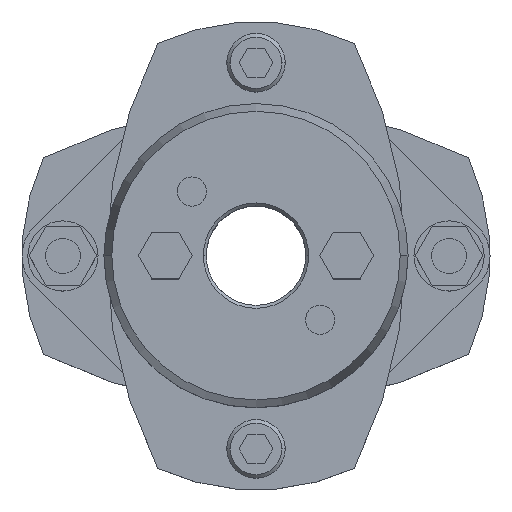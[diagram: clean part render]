
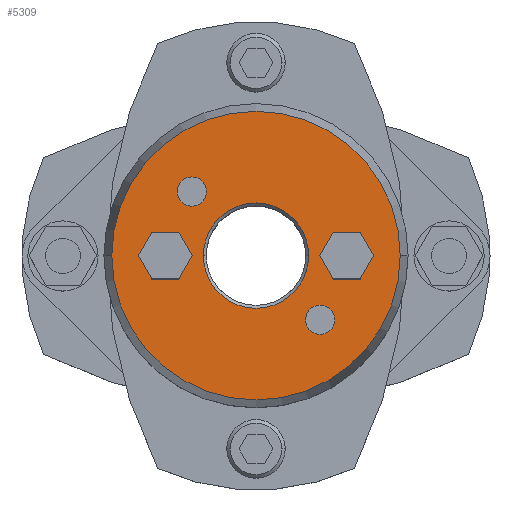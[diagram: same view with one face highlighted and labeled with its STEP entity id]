
A CAD part, top view. The second image highlights one B-rep face of the part: STEP entity #5309.
In plain terms, the highlighted planar face has unit normal (0, 0, 1).
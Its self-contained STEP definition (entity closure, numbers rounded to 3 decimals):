
#857=CARTESIAN_POINT('',(-9.,0.,35.875));
#858=VERTEX_POINT('',#857);
#874=CARTESIAN_POINT('',(9.,0.,35.875));
#875=VERTEX_POINT('',#874);
#882=CARTESIAN_POINT('',(0.,0.,35.875));
#883=DIRECTION('',(0.0,0.0,1.0));
#884=DIRECTION('',(-1.0,0.0,0.0));
#885=AXIS2_PLACEMENT_3D('',#882,#883,#884);
#886=CIRCLE('',#885,9.0);
#887=EDGE_CURVE('',#875,#858,#886,.T.);
#1045=CARTESIAN_POINT('',(24.66,0.,35.875));
#1046=VERTEX_POINT('',#1045);
#1053=CARTESIAN_POINT('',(-24.66,0.,35.875));
#1054=VERTEX_POINT('',#1053);
#1055=CARTESIAN_POINT('',(0.,0.,35.875));
#1056=DIRECTION('',(0.0,0.0,-1.0));
#1057=DIRECTION('',(1.0,0.0,0.0));
#1058=AXIS2_PLACEMENT_3D('',#1055,#1056,#1057);
#1059=CIRCLE('',#1058,24.66);
#1060=EDGE_CURVE('',#1046,#1054,#1059,.T.);
#1155=CARTESIAN_POINT('',(-13.46,10.96,35.875));
#1156=VERTEX_POINT('',#1155);
#1172=CARTESIAN_POINT('',(-8.46,10.96,35.875));
#1173=VERTEX_POINT('',#1172);
#1180=CARTESIAN_POINT('',(-10.96,10.96,35.875));
#1181=DIRECTION('',(0.0,0.0,-1.0));
#1182=DIRECTION('',(-1.0,0.0,0.0));
#1183=AXIS2_PLACEMENT_3D('',#1180,#1181,#1182);
#1184=CIRCLE('',#1183,2.5);
#1185=EDGE_CURVE('',#1156,#1173,#1184,.T.);
#1197=CARTESIAN_POINT('',(8.46,-10.96,35.875));
#1198=VERTEX_POINT('',#1197);
#1214=CARTESIAN_POINT('',(13.46,-10.96,35.875));
#1215=VERTEX_POINT('',#1214);
#1222=CARTESIAN_POINT('',(10.96,-10.96,35.875));
#1223=DIRECTION('',(0.0,0.0,-1.0));
#1224=DIRECTION('',(-1.0,0.0,0.0));
#1225=AXIS2_PLACEMENT_3D('',#1222,#1223,#1224);
#1226=CIRCLE('',#1225,2.5);
#1227=EDGE_CURVE('',#1198,#1215,#1226,.T.);
#4553=CARTESIAN_POINT('',(10.881,0.,35.875));
#4554=VERTEX_POINT('',#4553);
#4561=CARTESIAN_POINT('',(13.191,-4.,35.875));
#4562=VERTEX_POINT('',#4561);
#4563=CARTESIAN_POINT('',(13.191,-4.,35.875));
#4564=DIRECTION('',(-0.5,0.866,0.0));
#4565=VECTOR('',#4564,4.619);
#4566=LINE('',#4563,#4565);
#4567=EDGE_CURVE('',#4562,#4554,#4566,.T.);
#4591=CARTESIAN_POINT('',(13.191,4.,35.875));
#4592=VERTEX_POINT('',#4591);
#4599=CARTESIAN_POINT('',(10.881,0.,35.875));
#4600=DIRECTION('',(0.5,0.866,0.0));
#4601=VECTOR('',#4600,4.619);
#4602=LINE('',#4599,#4601);
#4603=EDGE_CURVE('',#4554,#4592,#4602,.T.);
#4622=CARTESIAN_POINT('',(17.809,4.,35.875));
#4623=VERTEX_POINT('',#4622);
#4630=CARTESIAN_POINT('',(13.191,4.,35.875));
#4631=DIRECTION('',(1.0,0.0,0.0));
#4632=VECTOR('',#4631,4.619);
#4633=LINE('',#4630,#4632);
#4634=EDGE_CURVE('',#4592,#4623,#4633,.T.);
#4653=CARTESIAN_POINT('',(20.119,0.,35.875));
#4654=VERTEX_POINT('',#4653);
#4661=CARTESIAN_POINT('',(17.809,4.,35.875));
#4662=DIRECTION('',(0.5,-0.866,0.0));
#4663=VECTOR('',#4662,4.619);
#4664=LINE('',#4661,#4663);
#4665=EDGE_CURVE('',#4623,#4654,#4664,.T.);
#4684=CARTESIAN_POINT('',(17.809,-4.,35.875));
#4685=VERTEX_POINT('',#4684);
#4692=CARTESIAN_POINT('',(20.119,0.,35.875));
#4693=DIRECTION('',(-0.5,-0.866,0.0));
#4694=VECTOR('',#4693,4.619);
#4695=LINE('',#4692,#4694);
#4696=EDGE_CURVE('',#4654,#4685,#4695,.T.);
#4714=CARTESIAN_POINT('',(17.809,-4.,35.875));
#4715=DIRECTION('',(-1.0,0.0,0.0));
#4716=VECTOR('',#4715,4.619);
#4717=LINE('',#4714,#4716);
#4718=EDGE_CURVE('',#4685,#4562,#4717,.T.);
#4753=CARTESIAN_POINT('',(-20.119,0.,35.875));
#4754=VERTEX_POINT('',#4753);
#4761=CARTESIAN_POINT('',(-17.809,-4.,35.875));
#4762=VERTEX_POINT('',#4761);
#4763=CARTESIAN_POINT('',(-17.809,-4.,35.875));
#4764=DIRECTION('',(-0.5,0.866,0.0));
#4765=VECTOR('',#4764,4.619);
#4766=LINE('',#4763,#4765);
#4767=EDGE_CURVE('',#4762,#4754,#4766,.T.);
#4791=CARTESIAN_POINT('',(-17.809,4.,35.875));
#4792=VERTEX_POINT('',#4791);
#4799=CARTESIAN_POINT('',(-20.119,0.,35.875));
#4800=DIRECTION('',(0.5,0.866,0.0));
#4801=VECTOR('',#4800,4.619);
#4802=LINE('',#4799,#4801);
#4803=EDGE_CURVE('',#4754,#4792,#4802,.T.);
#4822=CARTESIAN_POINT('',(-13.191,4.,35.875));
#4823=VERTEX_POINT('',#4822);
#4830=CARTESIAN_POINT('',(-17.809,4.,35.875));
#4831=DIRECTION('',(1.0,0.0,0.0));
#4832=VECTOR('',#4831,4.619);
#4833=LINE('',#4830,#4832);
#4834=EDGE_CURVE('',#4792,#4823,#4833,.T.);
#4853=CARTESIAN_POINT('',(-10.881,0.,35.875));
#4854=VERTEX_POINT('',#4853);
#4861=CARTESIAN_POINT('',(-13.191,4.,35.875));
#4862=DIRECTION('',(0.5,-0.866,0.0));
#4863=VECTOR('',#4862,4.619);
#4864=LINE('',#4861,#4863);
#4865=EDGE_CURVE('',#4823,#4854,#4864,.T.);
#4884=CARTESIAN_POINT('',(-13.191,-4.,35.875));
#4885=VERTEX_POINT('',#4884);
#4892=CARTESIAN_POINT('',(-10.881,0.,35.875));
#4893=DIRECTION('',(-0.5,-0.866,0.0));
#4894=VECTOR('',#4893,4.619);
#4895=LINE('',#4892,#4894);
#4896=EDGE_CURVE('',#4854,#4885,#4895,.T.);
#4914=CARTESIAN_POINT('',(-13.191,-4.,35.875));
#4915=DIRECTION('',(-1.0,0.0,0.0));
#4916=VECTOR('',#4915,4.619);
#4917=LINE('',#4914,#4916);
#4918=EDGE_CURVE('',#4885,#4762,#4917,.T.);
#4944=CARTESIAN_POINT('',(10.96,-10.96,35.875));
#4945=DIRECTION('',(0.0,0.0,-1.0));
#4946=DIRECTION('',(-1.0,0.0,0.0));
#4947=AXIS2_PLACEMENT_3D('',#4944,#4945,#4946);
#4948=CIRCLE('',#4947,2.5);
#4949=EDGE_CURVE('',#1215,#1198,#4948,.T.);
#4978=CARTESIAN_POINT('',(-10.96,10.96,35.875));
#4979=DIRECTION('',(0.0,0.0,-1.0));
#4980=DIRECTION('',(-1.0,0.0,0.0));
#4981=AXIS2_PLACEMENT_3D('',#4978,#4979,#4980);
#4982=CIRCLE('',#4981,2.5);
#4983=EDGE_CURVE('',#1173,#1156,#4982,.T.);
#5256=CARTESIAN_POINT('',(0.,0.,35.875));
#5257=DIRECTION('',(0.0,0.0,-1.0));
#5258=DIRECTION('',(1.0,0.0,0.0));
#5259=AXIS2_PLACEMENT_3D('',#5256,#5257,#5258);
#5260=CIRCLE('',#5259,24.66);
#5261=EDGE_CURVE('',#1054,#1046,#5260,.T.);
#5266=CARTESIAN_POINT('',(-2.364,0.,35.875));
#5267=DIRECTION('',(0.0,0.0,1.0));
#5268=DIRECTION('',(-1.0,0.0,0.0));
#5269=AXIS2_PLACEMENT_3D('',#5266,#5267,#5268);
#5270=PLANE('',#5269);
#5271=ORIENTED_EDGE('',*,*,#5261,.F.);
#5272=ORIENTED_EDGE('',*,*,#1060,.F.);
#5273=EDGE_LOOP('',(#5271,#5272));
#5274=FACE_OUTER_BOUND('',#5273,.T.);
#5275=ORIENTED_EDGE('',*,*,#4567,.T.);
#5276=ORIENTED_EDGE('',*,*,#4603,.T.);
#5277=ORIENTED_EDGE('',*,*,#4634,.T.);
#5278=ORIENTED_EDGE('',*,*,#4665,.T.);
#5279=ORIENTED_EDGE('',*,*,#4696,.T.);
#5280=ORIENTED_EDGE('',*,*,#4718,.T.);
#5281=EDGE_LOOP('',(#5275,#5276,#5277,#5278,#5279,#5280));
#5282=FACE_BOUND('',#5281,.T.);
#5283=ORIENTED_EDGE('',*,*,#4767,.T.);
#5284=ORIENTED_EDGE('',*,*,#4803,.T.);
#5285=ORIENTED_EDGE('',*,*,#4834,.T.);
#5286=ORIENTED_EDGE('',*,*,#4865,.T.);
#5287=ORIENTED_EDGE('',*,*,#4896,.T.);
#5288=ORIENTED_EDGE('',*,*,#4918,.T.);
#5289=EDGE_LOOP('',(#5283,#5284,#5285,#5286,#5287,#5288));
#5290=FACE_BOUND('',#5289,.T.);
#5291=ORIENTED_EDGE('',*,*,#1227,.T.);
#5292=ORIENTED_EDGE('',*,*,#4949,.T.);
#5293=EDGE_LOOP('',(#5291,#5292));
#5294=FACE_BOUND('',#5293,.T.);
#5295=ORIENTED_EDGE('',*,*,#1185,.T.);
#5296=ORIENTED_EDGE('',*,*,#4983,.T.);
#5297=EDGE_LOOP('',(#5295,#5296));
#5298=FACE_BOUND('',#5297,.T.);
#5299=ORIENTED_EDGE('',*,*,#887,.F.);
#5300=CARTESIAN_POINT('',(0.,0.,35.875));
#5301=DIRECTION('',(0.0,0.0,1.0));
#5302=DIRECTION('',(-1.0,0.0,0.0));
#5303=AXIS2_PLACEMENT_3D('',#5300,#5301,#5302);
#5304=CIRCLE('',#5303,9.0);
#5305=EDGE_CURVE('',#858,#875,#5304,.T.);
#5306=ORIENTED_EDGE('',*,*,#5305,.F.);
#5307=EDGE_LOOP('',(#5299,#5306));
#5308=FACE_BOUND('',#5307,.T.);
#5309=ADVANCED_FACE('',(#5274,#5282,#5290,#5294,#5298,#5308),#5270,.T.);
